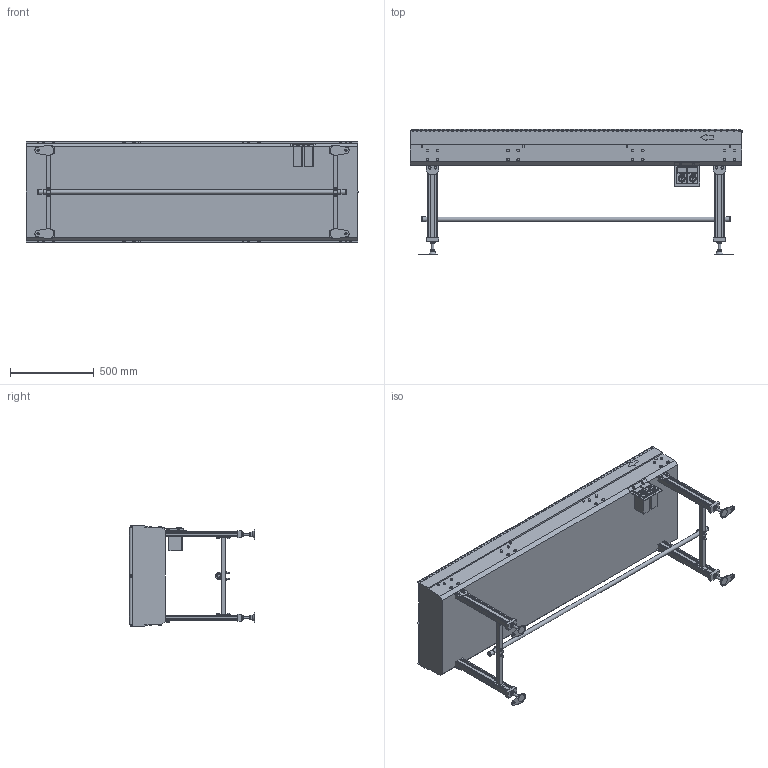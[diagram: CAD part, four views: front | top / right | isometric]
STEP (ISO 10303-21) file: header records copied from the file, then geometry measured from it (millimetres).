
FILE_DESCRIPTION (( 'STEP AP214' ), '1' );
FILE_NAME ('GA22-304x2-500-200-DC-7.5.STEP', '2024-08-08T23:15:04', ( '' ), ( '' ), 'SwSTEP 2.0', 'SolidWorks 2017', '' );
FILE_SCHEMA (( 'AUTOMOTIVE_DESIGN' ));
Length unit declared in the file: millimetre
Products named in the file (1): GA22-304x2-500-200-DC-7.5
Bounding box: 1985 x 750 x 603.31 mm (x, y, z)
Volume: 251318306.4 mm3; surface area: 7555383.7 mm2
Topology: 19 solids, 19 shells, 2901 faces, 7288 edges, 4876 vertices
Faces by surface type: plane 1952, cylinder 915, cone 18, torus 16
Full cylindrical faces by diameter (mm): 4.5 x8, 6 x142, 7 x4, 8 x284, 8.723 x8, 12.2 x2, 13 x4, 15.4 x48, 16 x8, 17 x12, 25.4 x1, 28.4 x2, 29.825 x2, 30 x4
Entity records: 114060 total; most frequent: CARTESIAN_POINT 16437, DIRECTION 13265, ORIENTED_EDGE 12866, EDGE_CURVE 6433, VERTEX_POINT 4576, AXIS2_PLACEMENT_3D 4510, VECTOR 4245, LINE 4245
